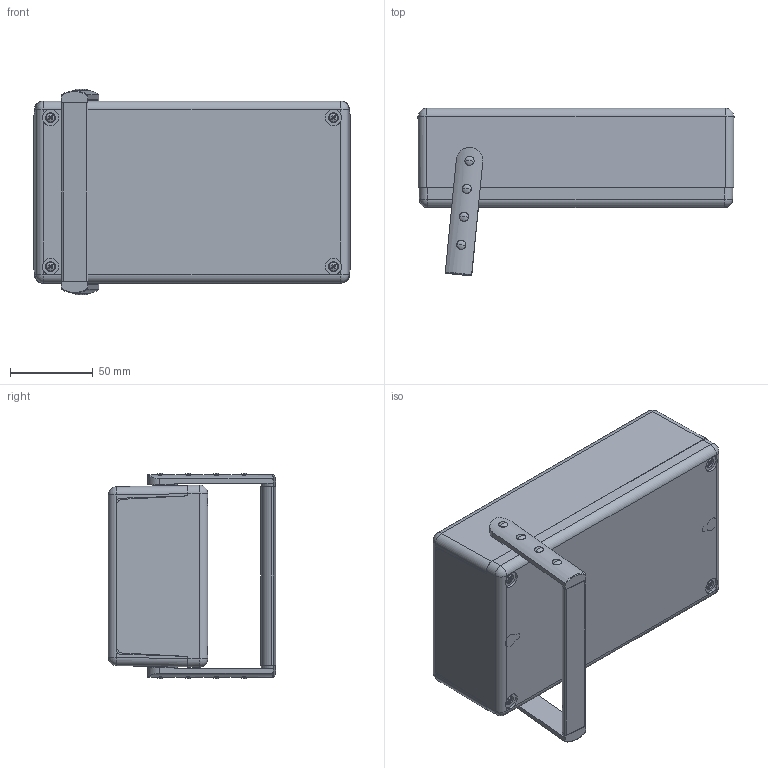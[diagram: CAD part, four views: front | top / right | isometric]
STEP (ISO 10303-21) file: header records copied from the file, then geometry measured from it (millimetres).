
FILE_DESCRIPTION (( 'STEP AP214' ), '1' );
FILE_NAME ('UNI-40166.STEP', '2020-11-05T16:08:29', ( 'Rudy' ), ( '' ), 'SwSTEP 2.0', 'SolidWorks 2016', '' );
FILE_SCHEMA (( 'AUTOMOTIVE_DESIGN' ));
Length unit declared in the file: millimetre
Products named in the file (9): UNI-40166 bottom; UNI-40166; pan cross head_am_B18.6.7M - M3 x 0.5 x 4 Type I Cross Recessed PHMS --4N; pan cross head_am_B18.6.7M - M3 x 0.5 x 16 Type I Cross Recessed PHMS --16N; 400 PCB; Handle; UNI Handle leg; handle connector; UNI-40166 Top
Assembly tree (15 placements, depth 3):
  UNI-40166
    UNI-40166 bottom
    UNI-40166 Top
    Handle
      handle connector
      UNI Handle leg  x2
    400 PCB
    pan cross head_am_B18.6.7M - M3 x 0.5 x 16 Type I Cross Recessed PHMS --16N  x4
    pan cross head_am_B18.6.7M - M3 x 0.5 x 4 Type I Cross Recessed PHMS --4N  x4
Bounding box: 190.92 x 101.08 x 123.97 mm (x, y, z)
Volume: 269520.6 mm3; surface area: 212480.1 mm2
Topology: 14 solids, 14 shells, 842 faces, 2092 edges, 1316 vertices
Faces by surface type: plane 402, cylinder 316, sphere 48, cone 38, bspline 20, torus 18
Entity records: 21031 total; most frequent: CARTESIAN_POINT 5196, DIRECTION 3329, ORIENTED_EDGE 3200, EDGE_CURVE 1600, AXIS2_PLACEMENT_3D 1222, VERTEX_POINT 1023, VECTOR 885, LINE 885
